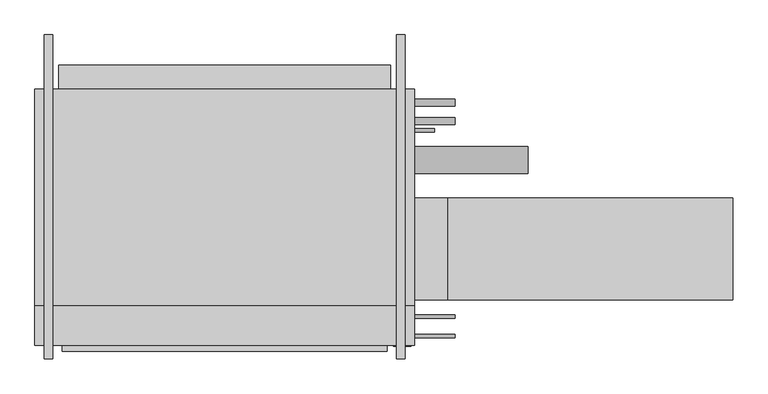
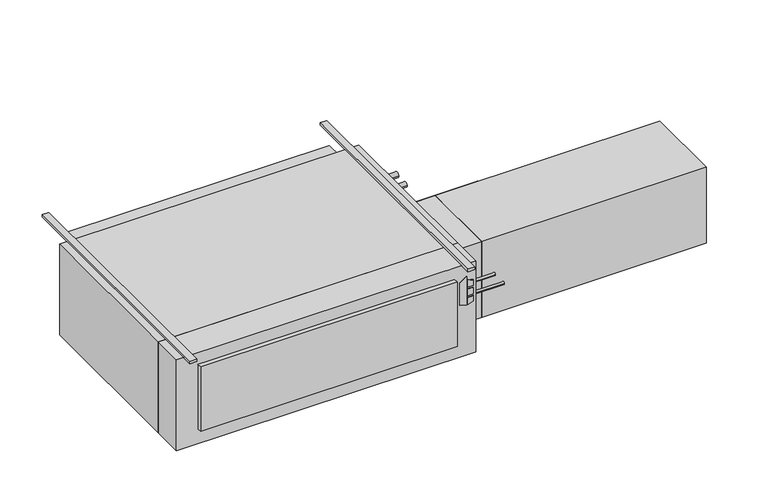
"""IFC4 building model written with IfcOpenShell, lengths in millimetres: proxy geometry."""

from ifc_helpers import new_model, si_unit, point, frame, frame_2d, origin, origin_with_axes, place, context, project, spatial, polyline, circle_curve, trimmed, segment, composite_curve, outline, extrude, source, transform, mapped, element, save


def mechanical_equipment_ea3bd49d(model_context):
    return source(origin(), model_context, "Body", "SweptSolid", [
        extrude(outline(polyline([(-193.2519297, 785.8868862), (-203.2, 818.0602728), (-61.0290756, 818.0602728), (-84.0510817, 785.8868862), (-193.2519297, 785.8868862)])), frame((0.0, -797.052, 0.0), z_axis=(0.0, 1.0, 0.0), x_axis=(0.0, 0.0, 1.0)), (0.0, 0.0, 1.0), 3.175),
        extrude(outline(polyline([(-114.2526443, 824.8186058), (-117.4550368, 850.9), (-88.2261958, 850.9), (-80.1617807, 824.8186058), (-114.2526443, 824.8186058)])), frame((0.0, -797.052, 0.0), z_axis=(0.0, 1.0, 0.0), x_axis=(0.0, 0.0, 1.0)), (0.0, 0.0, 1.0), 3.175),
        extrude(outline(polyline([(-166.1161712, 850.9), (-169.7816721, 824.8186058), (-203.2, 824.8186058), (-194.5657628, 850.9), (-166.1161712, 850.9)])), frame((0.0, -797.052, 0.0), z_axis=(0.0, 1.0, 0.0), x_axis=(0.0, 0.0, 1.0)), (0.0, 0.0, 1.0), 3.175),
        extrude(outline(polyline([(-126.8010097, 850.9), (-124.5191834, 824.8186058), (-160.4567319, 824.8186058), (-157.7154669, 850.9), (-126.8010097, 850.9)])), frame((0.0, -797.052, 0.0), z_axis=(0.0, 1.0, 0.0), x_axis=(0.0, 0.0, 1.0)), (0.0, 0.0, 1.0), 3.175),
        extrude(outline(polyline([(863.6, -793.877), (-558.8, -793.877), (-558.8, -644.525), (863.6, -644.525), (863.6, -793.877)])), frame((0.0, 0.0, -457.2), z_axis=(0.0, 0.0, 1.0), x_axis=(1.0, 0.0, 0.0)), (0.0, 0.0, 1.0), 457.2),
        extrude(outline(polyline([(762.0, -816.229), (-457.2, -816.229), (-457.2, -793.877), (762.0, -793.877), (762.0, -816.229)])), frame((0.0, 0.0, -381.0), z_axis=(0.0, 0.0, 1.0), x_axis=(1.0, 0.0, 0.0)), (0.0, 0.0, 1.0), 323.85),
        extrude(outline(polyline([(2057.4, -241.3), (2057.4, -622.3), (990.6, -622.3), (990.6, -241.3), (2057.4, -241.3)])), frame((0.0, 0.0, -431.8), z_axis=(0.0, 0.0, 1.0), x_axis=(1.0, 0.0, 0.0)), (0.0, 0.0, 1.0), 381.0),
        extrude(outline(polyline([(990.6, -241.3), (990.6, -622.3), (863.6, -622.3), (863.6, -241.3), (990.6, -241.3)])), frame((0.0, 0.0, -431.8), z_axis=(0.0, 0.0, 1.0), x_axis=(1.0, 0.0, 0.0)), (0.0, 0.0, 1.0), 381.0),
        extrude(outline(composite_curve([segment(trimmed(circle_curve(frame_2d((-758.825, -184.15)), 6.35), [point((-752.475, -184.15))], [point((-765.175, -184.15))], False, "CARTESIAN"), True, "CONTINUOUS"), segment(trimmed(circle_curve(frame_2d((-758.825, -184.15)), 6.35), [point((-765.175, -184.15))], [point((-752.475, -184.15))], False, "CARTESIAN"), True, "CONTINUOUS")], self_intersect=False)), frame((863.6, 0.0, 0.0), z_axis=(1.0, 0.0, 0.0), x_axis=(0.0, 1.0, 0.0)), (0.0, 0.0, 1.0), 152.4),
        extrude(outline(composite_curve([segment(trimmed(circle_curve(frame_2d((-685.8, -184.15)), 6.35), [point((-679.45, -184.15))], [point((-692.15, -184.15))], False, "CARTESIAN"), True, "CONTINUOUS"), segment(trimmed(circle_curve(frame_2d((-685.8, -184.15)), 6.35), [point((-692.15, -184.15))], [point((-679.45, -184.15))], False, "CARTESIAN"), True, "CONTINUOUS")], self_intersect=False)), frame((863.6, 0.0, 0.0), z_axis=(1.0, 0.0, 0.0), x_axis=(0.0, 1.0, 0.0)), (0.0, 0.0, 1.0), 152.4),
        extrude(outline(composite_curve([segment(trimmed(circle_curve(frame_2d((117.475, -171.45)), 12.7), [point((130.175, -171.45))], [point((104.775, -171.45))], False, "CARTESIAN"), True, "CONTINUOUS"), segment(trimmed(circle_curve(frame_2d((117.475, -171.45)), 12.7), [point((104.775, -171.45))], [point((130.175, -171.45))], False, "CARTESIAN"), True, "CONTINUOUS")], self_intersect=False)), frame((863.6, 0.0, 0.0), z_axis=(1.0, 0.0, 0.0), x_axis=(0.0, 1.0, 0.0)), (0.0, 0.0, 1.0), 152.4),
        extrude(outline(composite_curve([segment(trimmed(circle_curve(frame_2d((47.625, -177.8)), 12.7), [point((60.325, -177.8))], [point((34.925, -177.8))], False, "CARTESIAN"), True, "CONTINUOUS"), segment(trimmed(circle_curve(frame_2d((47.625, -177.8)), 12.7), [point((34.925, -177.8))], [point((60.325, -177.8))], False, "CARTESIAN"), True, "CONTINUOUS")], self_intersect=False)), frame((863.6, 0.0, 0.0), z_axis=(1.0, 0.0, 0.0), x_axis=(0.0, 1.0, 0.0)), (0.0, 0.0, 1.0), 152.4),
        extrude(outline(composite_curve([segment(trimmed(circle_curve(frame_2d((-98.4896516, -228.6360165)), 50.8), [point((-47.6896516, -228.6360165))], [point((-149.2896516, -228.6360165))], False, "CARTESIAN"), True, "CONTINUOUS"), segment(trimmed(circle_curve(frame_2d((-98.4896516, -228.6360165)), 50.8), [point((-149.2896516, -228.6360165))], [point((-47.6896516, -228.6360165))], False, "CARTESIAN"), True, "CONTINUOUS")], self_intersect=False)), frame((863.6, 0.0, 0.0), z_axis=(1.0, 0.0, 0.0), x_axis=(0.0, 1.0, 0.0)), (0.0, 0.0, 1.0), 425.45),
        extrude(outline(composite_curve([segment(trimmed(circle_curve(frame_2d((12.7, -409.575)), 6.35), [point((19.05, -409.575))], [point((6.35, -409.575))], False, "CARTESIAN"), True, "CONTINUOUS"), segment(trimmed(circle_curve(frame_2d((12.7, -409.575)), 6.35), [point((6.35, -409.575))], [point((19.05, -409.575))], False, "CARTESIAN"), True, "CONTINUOUS")], self_intersect=False)), frame((863.6, 0.0, 0.0), z_axis=(1.0, 0.0, 0.0), x_axis=(0.0, 1.0, 0.0)), (0.0, 0.0, 1.0), 76.2),
        extrude(outline(polyline([(863.6, 168.275), (863.6, -644.525), (-558.8, -644.525), (-558.8, 168.275), (863.6, 168.275)])), frame((0.0, 0.0, -457.2), z_axis=(0.0, 0.0, 1.0), x_axis=(1.0, 0.0, 0.0)), (0.0, 0.0, 1.0), 457.2),
        extrude(outline(polyline([(-469.9, 257.175), (774.7, 257.175), (774.7, 168.275), (-469.9, 168.275), (-469.9, 257.175)])), frame((0.0, 0.0, -381.0), z_axis=(0.0, 0.0, 1.0), x_axis=(1.0, 0.0, 0.0)), (0.0, 0.0, 1.0), 355.6),
        extrude(outline(polyline([(-492.125, 371.475), (-492.125, -844.677), (-523.875, -844.677), (-523.875, 371.475), (-492.125, 371.475)])), origin_with_axes(), (0.0, 0.0, 1.0), 12.7),
        extrude(outline(polyline([(828.675, 371.475), (828.675, -844.677), (796.925, -844.677), (796.925, 371.475), (828.675, 371.475)])), origin_with_axes(), (0.0, 0.0, 1.0), 12.7),
    ])


if __name__ == "__main__":
    model = new_model("IFC4")
    model_context = context("Model", 3, world=origin())
    ifc_project = project(units=[si_unit("LENGTHUNIT", "METRE", prefix="MILLI")], contexts=[model_context])
    site = spatial("IfcSite", under=ifc_project)
    building = spatial("IfcBuilding", under=site)
    placement = place(None, origin())
    mechanical_equipment_shape = mechanical_equipment_ea3bd49d(model_context)
    element("IfcBuildingElementProxy", 1, Name="High_Capacity_Horizontal_Cabinet_Fan_Coil_Unit_-_HTY_-_IEC_-_4-Pipe_WO-Attenuator_RH Side_2022 : Size 20 - 115v/60Hz/1Ph - 4/1 Coil - 4\" AirIn", ObjectType="High_Capacity_Horizontal_Cabinet_Fan_Coil_Unit_-_HTY_-_IEC_-_4-Pipe_WO-Attenuator_RH Side_2022 : Size 20 - 115v/60Hz/1Ph - 4/1 Coil - 4\" AirIn", at=placement, inside=building, context=model_context, shape_type="MappedRepresentation", body=[
        mapped(mechanical_equipment_shape, transform((0.0, 0.0, 0.0), x_axis=(1.0, 0.0, 0.0), y_axis=(0.0, 1.0, 0.0), z_axis=(0.0, 0.0, 1.0))),
    ])
    save(model, "model.ifc")
